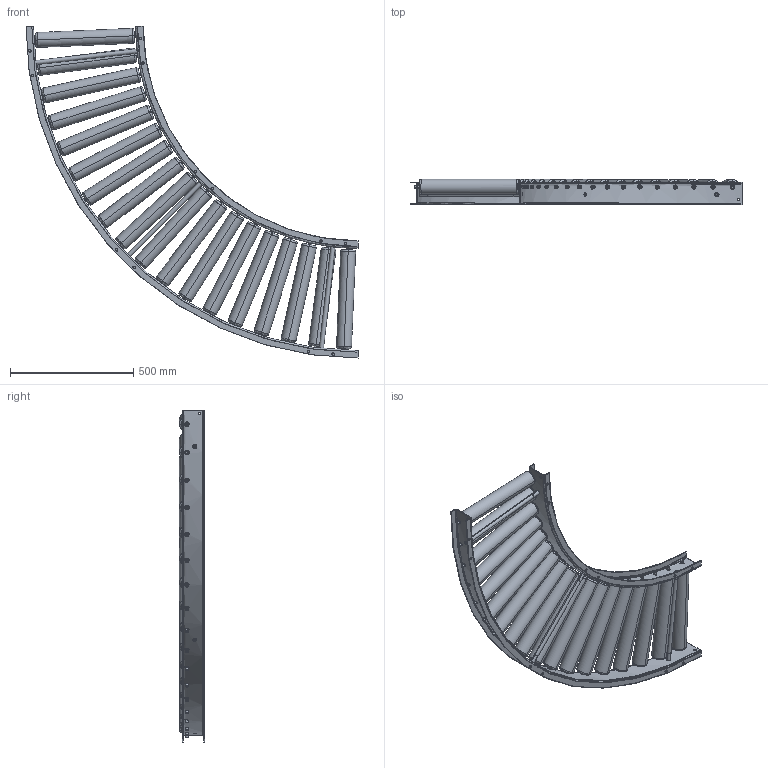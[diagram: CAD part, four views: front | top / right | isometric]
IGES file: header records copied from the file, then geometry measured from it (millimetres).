
Start section: 3D InterOp IGES (Version 21 0 2), Spatial Corp. Copyright (c) 1999-2007.
Global section: file name: R-6023P-02.igs; native system: Spatial Corp.; preprocessor: 3D InterOp GENERIC/IGES 3.0; author: Noname; organization: Noname; date: 20121028.144803; units: millimetre
Bounding box: 1345 x 101.75 x 1345 mm (x, y, z)
Surface area: 2567151.7 mm2 (no closed solid volume)
Topology: 0 solids, 0 shells, 912 faces, 5480 edges, 5468 vertices
Faces by surface type: bspline 912
